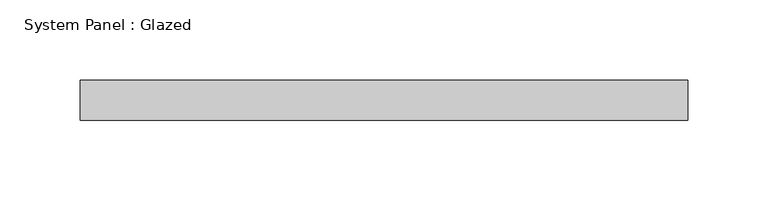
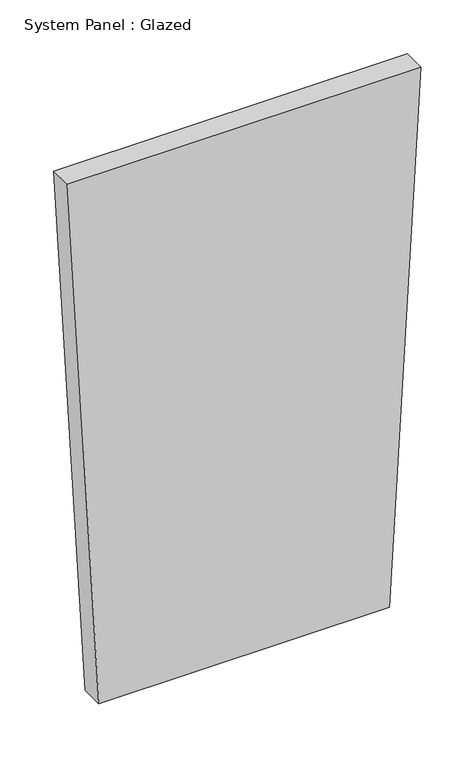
"""IFC4 building model written with IfcOpenShell, lengths in millimetres: plate geometry, System Panel : Glazed."""

import ifcopenshell
import ifcopenshell.guid

model = None  # the IFC model being written
_history = None  # IfcOwnerHistory: only IFC2X3 demands one
_inside = {}  # id of a spatial element -> (the spatial element, [elements in it])
_under = {}  # id of a project, library or spatial element -> (it, [spatial elements below it])
_declared = {}  # id of a project -> (the project, [libraries it declares])
_typed = {}  # id of a type object -> (the type object, [elements of that type])
_made_of = {}  # id of a material, layer set ... -> (it, [elements and type objects made of it])


def new_model(schema):
    """Start an empty IFC model of exactly this schema.

    Asked for "IFC4X3", IfcOpenShell would pick the latest addendum, in which some entities
    have other attributes; the version numbers below select the first issue.
    IFC2X3 requires an IfcOwnerHistory on every rooted entity: one is made here for all.
    """
    global model, _history
    if schema == "IFC4X3":
        model = ifcopenshell.file(schema_version=(4, 3, 0, 0))
    else:
        model = ifcopenshell.file(schema=schema)
    _inside.clear()
    _under.clear()
    _declared.clear()
    _typed.clear()
    _made_of.clear()
    _history = None
    if model.schema == "IFC2X3":
        org = make("IfcOrganization", Name="unknown")
        user = make(
            "IfcPersonAndOrganization",
            ThePerson=make("IfcPerson", FamilyName="unknown"),
            TheOrganization=org,
        )
        app = make(
            "IfcApplication",
            ApplicationDeveloper=org,
            Version="unknown",
            ApplicationFullName="unknown",
            ApplicationIdentifier="unknown",
        )
        _history = make(
            "IfcOwnerHistory",
            OwningUser=user,
            OwningApplication=app,
            ChangeAction="ADDED",
            CreationDate=0,
        )
    return model


def make(cls, **values):
    """One entity of the class cls with the attributes given. An attribute that is None is left unset."""
    return model.create_entity(
        cls, **{name: value for name, value in values.items() if value is not None}
    )


def rooted(cls, **values):
    """An entity with a GlobalId (a new one), such as an element, a storey or a relation."""
    return make(cls, GlobalId=ifcopenshell.guid.new(), OwnerHistory=_history, **values)


def si_unit(unit_type, name, prefix=None):
    """IfcSIUnit, for example si_unit("LENGTHUNIT", "METRE", prefix="MILLI")."""
    return make("IfcSIUnit", UnitType=unit_type, Prefix=prefix, Name=name)


def assignment(units):
    """IfcUnitAssignment: the units of a project."""
    return None if units is None else make("IfcUnitAssignment", Units=units)


def point(xyz):
    """IfcCartesianPoint."""
    return None if xyz is None else make("IfcCartesianPoint", Coordinates=xyz)


def direction(xyz):
    """IfcDirection."""
    return None if xyz is None else make("IfcDirection", DirectionRatios=xyz)


def frame(location, z_axis=None, x_axis=None):
    """IfcAxis2Placement3D, a coordinate frame: its origin and axes. An axis left out is left unset."""
    return make(
        "IfcAxis2Placement3D",
        Location=point(location),
        Axis=direction(z_axis),
        RefDirection=direction(x_axis),
    )


def origin():
    """The frame at (0, 0, 0) with its axes left unset."""
    return frame((0.0, 0.0, 0.0))


def place(relative_to, where):
    """IfcLocalPlacement: puts the frame where relative to a parent placement (None: the world)."""
    return make(
        "IfcLocalPlacement", PlacementRelTo=relative_to, RelativePlacement=where
    )


def context(
    kind, dimensions, precision=None, world=None, true_north=None, identifier=None
):
    """IfcGeometricRepresentationContext, for example the 3D "Model" context."""
    return make(
        "IfcGeometricRepresentationContext",
        ContextIdentifier=identifier,
        ContextType=kind,
        CoordinateSpaceDimension=dimensions,
        Precision=precision,
        WorldCoordinateSystem=world,
        TrueNorth=true_north,
    )


def project(units=None, contexts=None):
    """IfcProject with its units and contexts."""
    return rooted(
        "IfcProject",
        Name="project",
        RepresentationContexts=contexts,
        UnitsInContext=assignment(units),
    )


def spatial(cls, under=None, at=None, **own):
    """A site, building, storey or space (cls), placed at a placement, below another one or the project."""
    s = rooted(cls, ObjectPlacement=at, **own)
    if under is not None:
        _under.setdefault(under.id(), (under, []))[1].append(s)
    return s


def polyline(points):
    """IfcPolyline through the points."""
    return make("IfcPolyline", Points=[point(p) for p in points])


def outline(outer, holes=None, kind="AREA"):
    """IfcArbitraryClosedProfileDef: a profile drawn as a closed curve; with holes, ...WithVoids."""
    if holes is None:
        return make("IfcArbitraryClosedProfileDef", ProfileType=kind, OuterCurve=outer)
    return make(
        "IfcArbitraryProfileDefWithVoids",
        ProfileType=kind,
        OuterCurve=outer,
        InnerCurves=holes,
    )


def extrude(swept, where, along, depth):
    """IfcExtrudedAreaSolid: the profile swept, set in the frame where, extruded along a direction by depth."""
    return make(
        "IfcExtrudedAreaSolid",
        SweptArea=swept,
        Position=where,
        ExtrudedDirection=direction(along),
        Depth=depth,
    )


def shape(context_of_items, identifier, shape_type, items):
    """IfcShapeRepresentation: the items that make up one representation, for example the "Body"."""
    return make(
        "IfcShapeRepresentation",
        ContextOfItems=context_of_items,
        RepresentationIdentifier=identifier,
        RepresentationType=shape_type,
        Items=items,
    )


def source(mapping_origin, context_of_items, identifier, shape_type, items):
    """IfcRepresentationMap: a shape defined once, which mapped items show again and again."""
    return make(
        "IfcRepresentationMap",
        MappingOrigin=mapping_origin,
        MappedRepresentation=shape(context_of_items, identifier, shape_type, items),
    )


def transform(
    local_origin,
    x_axis=None,
    y_axis=None,
    z_axis=None,
    scale=None,
    scale2=None,
    scale3=None,
    uniform=True,
):
    """IfcCartesianTransformationOperator3D, or its non-uniform kind. x_axis, y_axis, z_axis: its Axis1, 2, 3."""
    if uniform:
        return make(
            "IfcCartesianTransformationOperator3D",
            Axis1=direction(x_axis),
            Axis2=direction(y_axis),
            LocalOrigin=point(local_origin),
            Scale=scale,
            Axis3=direction(z_axis),
        )
    return make(
        "IfcCartesianTransformationOperator3DnonUniform",
        Axis1=direction(x_axis),
        Axis2=direction(y_axis),
        LocalOrigin=point(local_origin),
        Scale=scale,
        Axis3=direction(z_axis),
        Scale2=scale2,
        Scale3=scale3,
    )


def mapped(mapping_source, mapping_target):
    """IfcMappedItem: shows the shape of a source again, moved by a transform."""
    return make(
        "IfcMappedItem", MappingSource=mapping_source, MappingTarget=mapping_target
    )


def made_of(thing, what):
    """Note that an element or type object is made of a material, layer set ...; save() writes the relation."""
    if what is not None:
        _made_of.setdefault(what.id(), (what, []))[1].append(thing)
    return thing


def element(
    cls,
    number,
    at=None,
    inside=None,
    cuts=None,
    type_object=None,
    material=None,
    context=None,
    identifier="Body",
    shape_type=None,
    held_by="IfcProductDefinitionShape",
    body=None,
    shapes=None,
    **own,
):
    """One element of the class cls, such as IfcWall. Its Tag is "e" and its number.

    at: its placement. inside: the storey or other place that contains it. cuts: it is an
    opening in that element (IfcRelVoidsElement). A single representation is given by context,
    identifier, shape_type and body (its items); several are given by shapes. held_by: the class
    of the entity that holds the representations. save() writes the other relations.
    """
    e = rooted(cls, Tag="e%d" % number, ObjectPlacement=at, **own)
    if body is not None:
        shapes = [shape(context, identifier, shape_type, body)]
    if shapes is not None:
        e.Representation = make(held_by, Representations=shapes)
    if inside is not None:
        _inside.setdefault(inside.id(), (inside, []))[1].append(e)
    if cuts is not None:
        rooted(
            "IfcRelVoidsElement", RelatingBuildingElement=cuts, RelatedOpeningElement=e
        )
    if type_object is not None:
        _typed.setdefault(type_object.id(), (type_object, []))[1].append(e)
    return made_of(e, material)


def aggregate(whole, parts):
    """IfcRelAggregates: a whole, such as a stair, and the parts it consists of."""
    return rooted("IfcRelAggregates", RelatingObject=whole, RelatedObjects=parts)


def save(model, path):
    """Write the relations noted so far, then the file.

    IfcRelAggregates (storeys below a building ...), IfcRelContainedInSpatialStructure (elements
    in a storey), IfcRelDefinesByType, IfcRelAssociatesMaterial and IfcRelDeclares: one each for
    every whole, place, type object, material and project.
    """
    for whole, parts in _under.values():
        aggregate(whole, parts)
    for where, things in _inside.values():
        rooted(
            "IfcRelContainedInSpatialStructure",
            RelatedElements=things,
            RelatingStructure=where,
        )
    for kind, things in _typed.values():
        rooted("IfcRelDefinesByType", RelatedObjects=things, RelatingType=kind)
    for what, things in _made_of.values():
        rooted("IfcRelAssociatesMaterial", RelatedObjects=things, RelatingMaterial=what)
    for by, libraries in _declared.values():
        rooted("IfcRelDeclares", RelatingContext=by, RelatedDefinitions=libraries)
    model.write(path)


def system_panel_glazed_054aaf1e(model_context):
    return source(origin(), model_context, "Body", "SweptSolid", [
        extrude(outline(polyline([(0.0, -155.7506196), (0.0, 155.7506196), (599.0677272, 189.1850061), (599.0677272, -189.1850061), (0.0, -155.7506196)])), frame((0.0, 24.5, 0.0), z_axis=(0.0, 1.0, 0.0), x_axis=(0.0, 0.0, 1.0)), (0.0, 0.0, 1.0), 25.0),
    ])


if __name__ == "__main__":
    model = new_model("IFC4")
    model_context = context("Model", 3, world=origin())
    ifc_project = project(units=[si_unit("LENGTHUNIT", "METRE", prefix="MILLI")], contexts=[model_context])
    site = spatial("IfcSite", under=ifc_project)
    building = spatial("IfcBuilding", under=site)
    placement = place(None, origin())
    system_panel_glazed_shape = system_panel_glazed_054aaf1e(model_context)
    element("IfcPlate", 1, ObjectType="System Panel : Glazed", at=placement, inside=building, context=model_context, shape_type="MappedRepresentation", body=[
        mapped(system_panel_glazed_shape, transform((0.0, 0.0, 0.0), x_axis=(1.0, 0.0, 0.0), y_axis=(0.0, 1.0, 0.0), z_axis=(0.0, 0.0, 1.0))),
    ])
    save(model, "model.ifc")
